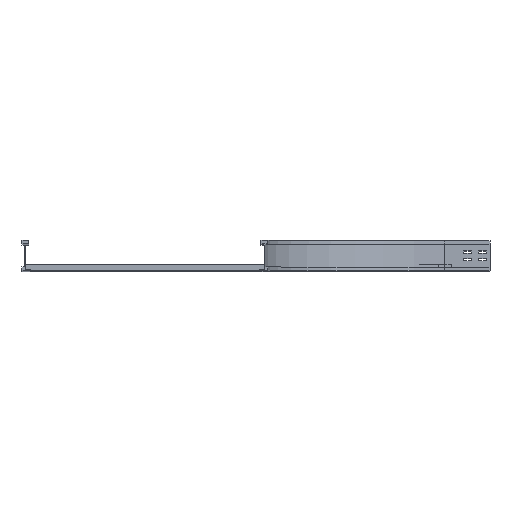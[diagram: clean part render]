
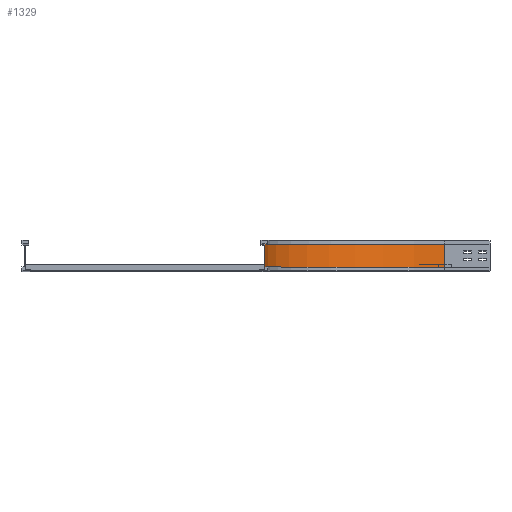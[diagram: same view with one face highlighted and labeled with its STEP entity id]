
A CAD part, top view. The second image highlights one B-rep face of the part: STEP entity #1329.
In plain terms, the highlighted cylindrical face has radius 600 mm (diameter 1200 mm), a partial arc.
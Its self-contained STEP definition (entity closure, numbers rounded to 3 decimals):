
#111 = CYLINDRICAL_SURFACE ( 'NONE', #799, 600. ) ;
#131 = DIRECTION ( 'NONE',  ( 0., 0., -1. ) ) ;
#159 = CARTESIAN_POINT ( 'NONE',  ( 591., 88., -750. ) ) ;
#232 = CARTESIAN_POINT ( 'NONE',  ( -9., 12., -150. ) ) ;
#279 = DIRECTION ( 'NONE',  ( 0., -1., 0. ) ) ;
#514 = ORIENTED_EDGE ( 'NONE', *, *, #4569, .T. ) ;
#690 = DIRECTION ( 'NONE',  ( 0., 1., 0. ) ) ;
#792 = VECTOR ( 'NONE', #3762, 1000. ) ;
#799 = AXIS2_PLACEMENT_3D ( 'NONE', #1222, #2379, #131 ) ;
#925 = AXIS2_PLACEMENT_3D ( 'NONE', #2492, #279, #4693 ) ;
#931 = ORIENTED_EDGE ( 'NONE', *, *, #2578, .F. ) ;
#1222 = CARTESIAN_POINT ( 'NONE',  ( 591., 0., -150. ) ) ;
#1329 = ADVANCED_FACE ( 'NONE', ( #4214 ), #111, .F. ) ;
#1361 = LINE ( 'NONE', #3946, #3849 ) ;
#1614 = LINE ( 'NONE', #4195, #792 ) ;
#1637 = ORIENTED_EDGE ( 'NONE', *, *, #3955, .F. ) ;
#1783 = CARTESIAN_POINT ( 'NONE',  ( 591., 88., -150. ) ) ;
#1809 = DIRECTION ( 'NONE',  ( 0., -1., 0. ) ) ;
#2379 = DIRECTION ( 'NONE',  ( 0., -1., 0. ) ) ;
#2492 = CARTESIAN_POINT ( 'NONE',  ( 591., 12., -150. ) ) ;
#2578 = EDGE_CURVE ( 'NONE', #3215, #3992, #3411, .T. ) ;
#2970 = DIRECTION ( 'NONE',  ( -1., 0., 0. ) ) ;
#3022 = AXIS2_PLACEMENT_3D ( 'NONE', #1783, #1809, #2970 ) ;
#3215 = VERTEX_POINT ( 'NONE', #4518 ) ;
#3260 = EDGE_LOOP ( 'NONE', ( #931, #1637, #4321, #514 ) ) ;
#3411 = CIRCLE ( 'NONE', #3022, 600. ) ;
#3466 = CIRCLE ( 'NONE', #925, 600. ) ;
#3762 = DIRECTION ( 'NONE',  ( 0., 1., 0. ) ) ;
#3786 = VERTEX_POINT ( 'NONE', #232 ) ;
#3799 = EDGE_CURVE ( 'NONE', #3786, #4486, #3466, .T. ) ;
#3849 = VECTOR ( 'NONE', #690, 1000. ) ;
#3946 = CARTESIAN_POINT ( 'NONE',  ( 591., 12., -750. ) ) ;
#3955 = EDGE_CURVE ( 'NONE', #3786, #3215, #1614, .T. ) ;
#3992 = VERTEX_POINT ( 'NONE', #159 ) ;
#4195 = CARTESIAN_POINT ( 'NONE',  ( -9., 12., -150. ) ) ;
#4214 = FACE_OUTER_BOUND ( 'NONE', #3260, .T. ) ;
#4259 = CARTESIAN_POINT ( 'NONE',  ( 591., 12., -750. ) ) ;
#4321 = ORIENTED_EDGE ( 'NONE', *, *, #3799, .T. ) ;
#4486 = VERTEX_POINT ( 'NONE', #4259 ) ;
#4518 = CARTESIAN_POINT ( 'NONE',  ( -9., 88., -150. ) ) ;
#4569 = EDGE_CURVE ( 'NONE', #4486, #3992, #1361, .T. ) ;
#4693 = DIRECTION ( 'NONE',  ( -1., 0., 0. ) ) ;
